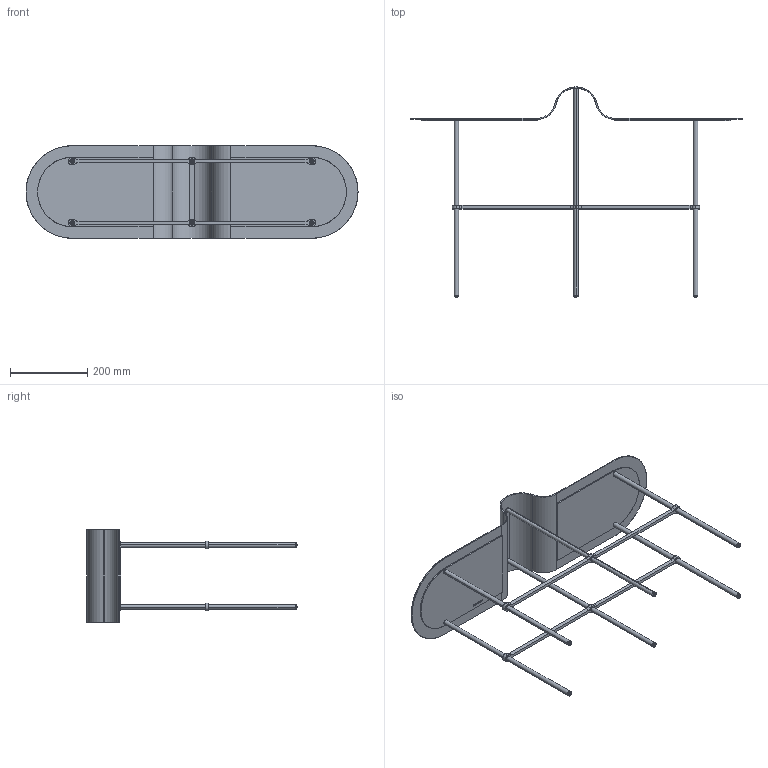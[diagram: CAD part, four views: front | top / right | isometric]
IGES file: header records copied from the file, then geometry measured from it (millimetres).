
Start section: SolidWorks IGES file using analytic representation for surfaces
Global section: file name: \\utenti\Dati Utenti\Tecnico\DC\2D - 3D per sito\3D\DeCastelli-3D-Scribble Bracket.igs; native system: SolidWorks 2022; preprocessor: SolidWorks 2022; author: Simonep; date: 240729.120741; units: millimetre
Bounding box: 860 x 544.05 x 240 mm (x, y, z)
Surface area: 698640.7 mm2 (no closed solid volume)
Topology: 0 solids, 0 shells, 167 faces, 2493 edges, 2489 vertices
Faces by surface type: bspline 98, revolution 69
